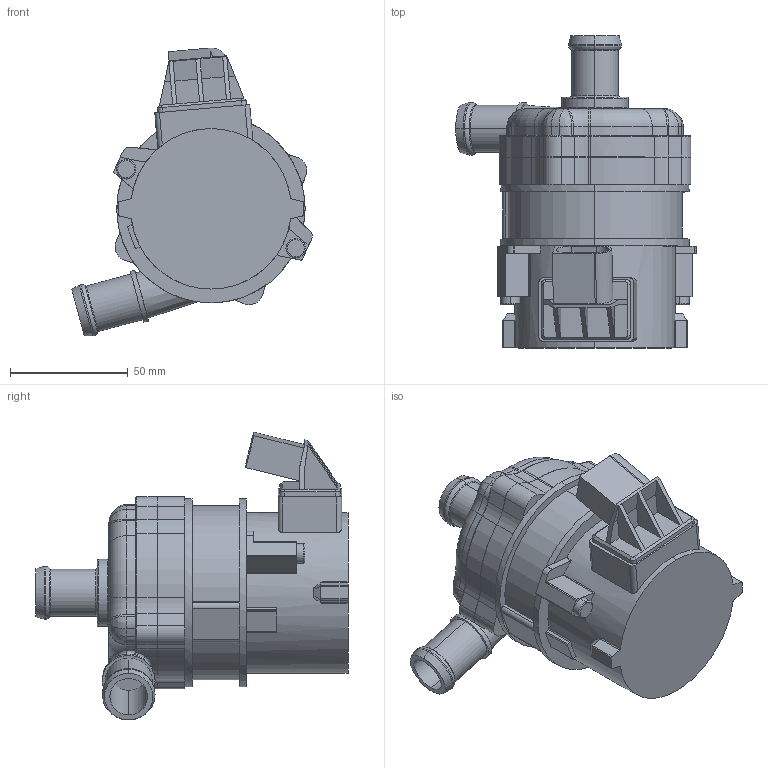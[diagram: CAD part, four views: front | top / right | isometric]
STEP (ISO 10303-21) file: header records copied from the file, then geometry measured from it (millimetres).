
FILE_DESCRIPTION (( 'STEP AP214' ), '1' );
FILE_NAME ('CWA150variant.STEP', '2021-11-26T15:13:06', ( '' ), ( '' ), 'STEP 2.0', 'Tecomotive 2021', '' );
FILE_SCHEMA (( 'AUTOMOTIVE_DESIGN' ));
Length unit declared in the file: millimetre
Products named in the file (1): CWA150variant
Bounding box: 102.19 x 132.6 x 122.36 mm (x, y, z)
Volume: 453320.5 mm3; surface area: 52012.7 mm2
Topology: 1 solids, 1 shells, 417 faces, 1067 edges, 661 vertices
Faces by surface type: cylinder 170, plane 162, torus 55, bspline 20, cone 10
Entity records: 18909 total; most frequent: CARTESIAN_POINT 5877, DIRECTION 2241, ORIENTED_EDGE 2118, EDGE_CURVE 1059, AXIS2_PLACEMENT_3D 856, VERTEX_POINT 661, LINE 529, VECTOR 529
